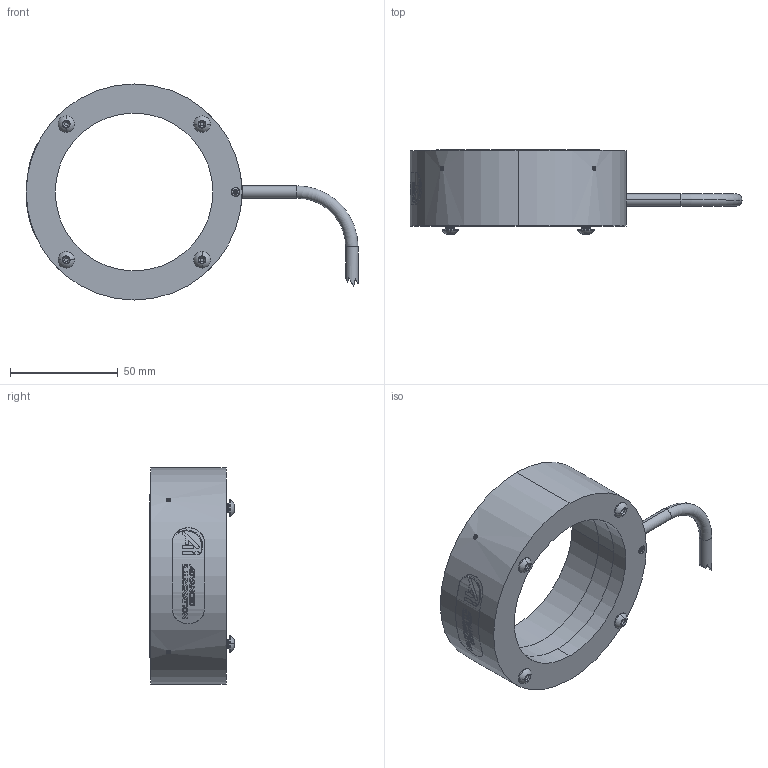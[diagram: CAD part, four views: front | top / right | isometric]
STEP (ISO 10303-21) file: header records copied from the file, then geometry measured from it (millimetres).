
FILE_DESCRIPTION (( 'STEP AP214' ), '1' );
FILE_NAME ('DF196-100_Default.stp', '2021-05-07T18:21:31', ( '' ), ( '' ), 'SwSTEP 2.0', 'SolidWorks 2018', '' );
FILE_SCHEMA (( 'AUTOMOTIVE_DESIGN' ));
Length unit declared in the file: inch
Products named in the file (16): DF196-100_Default; 91375A074_91375A074; 092278; 092282_DefaultSM-FLAT-PATTERN; 092281; 091053 (DFXXX-100); 092408_TRUNCATED; 092280; 15mm Advanced illumination (RL5064); 15mm Ai (RL5064); 092277; 15mm Swish (RL5064)_Default<As Machined>; BH-M4x8; 092279; 15mm Label (DF196-100)_Default<As Machined>; 092407_91375A079
Assembly tree (21 placements, depth 3):
  DF196-100_Default
    092277
    092280
    092279
    092278
    092282_DefaultSM-FLAT-PATTERN
    092281
    91375A074_91375A074  x4
    092407_91375A079
    091053 (DFXXX-100)
      15mm Label (DF196-100)_Default<As Machined>
      15mm Ai (RL5064)
      15mm Swish (RL5064)_Default<As Machined>
      15mm Advanced illumination (RL5064)
    BH-M4x8  x4
    092408_TRUNCATED
Bounding box: 153.71 x 38.98 x 100.01 mm (x, y, z)
Volume: 110708.6 mm3; surface area: 82345.8 mm2
Topology: 51 solids, 51 shells, 1123 faces, 2506 edges, 1474 vertices
Faces by surface type: cylinder 412, cone 308, plane 291, bspline 100, torus 12
Entity records: 28319 total; most frequent: CARTESIAN_POINT 11770, ORIENTED_EDGE 3210, DIRECTION 2798, EDGE_CURVE 1605, AXIS2_PLACEMENT_3D 1036, VERTEX_POINT 976, EDGE_LOOP 761, FACE_OUTER_BOUND 727
